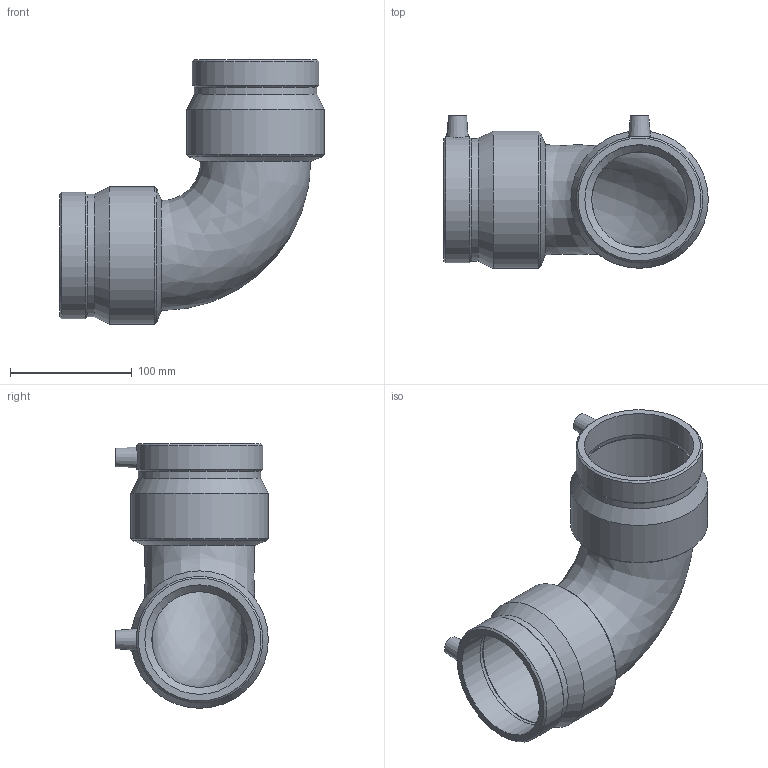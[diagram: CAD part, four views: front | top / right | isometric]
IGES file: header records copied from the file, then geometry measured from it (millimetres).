
Global section: file name: 490504090.ipt; native system: Autodesk Inventor 2015; preprocessor: unknown; author: KIM; date: 20171106.093637; units: millimetre
Bounding box: 217.52 x 125.5 x 217.52 mm (x, y, z)
Volume: 677303.3 mm3; surface area: 182585.3 mm2
Topology: 1 solids, 1 shells, 42 faces, 98 edges, 64 vertices
Faces by surface type: revolution 12, cone 12, plane 10, cylinder 8
Full cylindrical faces by diameter (mm): 4 x2, 100.841 x2, 103.96 x2, 113 x2
